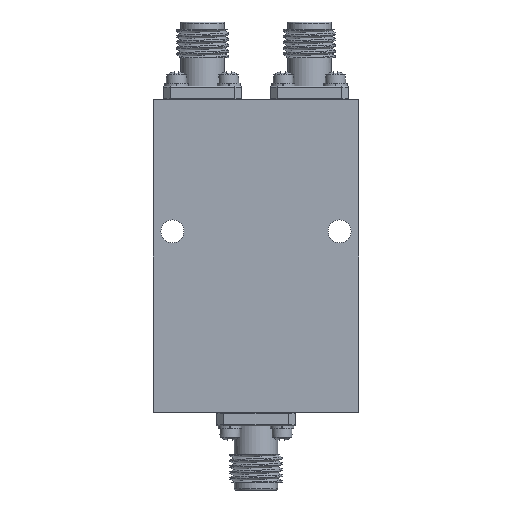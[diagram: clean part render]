
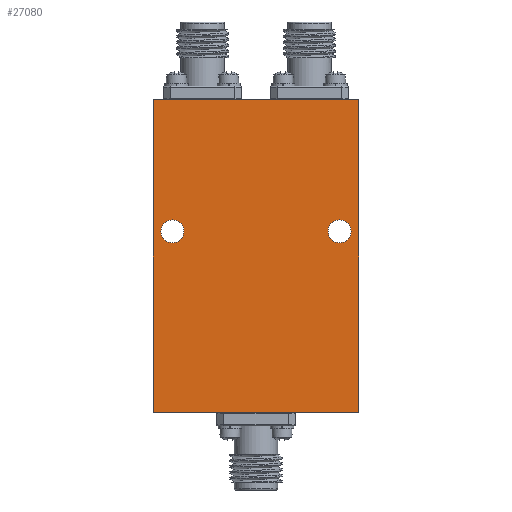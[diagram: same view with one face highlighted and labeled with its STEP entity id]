
A CAD part, front view. The second image highlights one B-rep face of the part: STEP entity #27080.
In plain terms, the highlighted planar face has unit normal (0, -1, 0).
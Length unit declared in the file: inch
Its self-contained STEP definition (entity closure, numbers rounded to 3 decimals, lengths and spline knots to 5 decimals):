
#2441 = CARTESIAN_POINT ( 'NONE',  ( 0., -0.394, 0. ) ) ;
#2663 = VECTOR ( 'NONE', #30545, 39.37008 ) ;
#3137 = CARTESIAN_POINT ( 'NONE',  ( 0.984, -0.394, 0. ) ) ;
#3247 = VERTEX_POINT ( 'NONE', #26199 ) ;
#3667 = VERTEX_POINT ( 'NONE', #6212 ) ;
#4943 = FACE_BOUND ( 'NONE', #8284, .T. ) ;
#5911 = ORIENTED_EDGE ( 'NONE', *, *, #14863, .F. ) ;
#6212 = CARTESIAN_POINT ( 'NONE',  ( 0., -0.394, -1.496 ) ) ;
#6268 = ORIENTED_EDGE ( 'NONE', *, *, #15219, .F. ) ;
#6606 = VECTOR ( 'NONE', #30829, 39.37008 ) ;
#7225 = CIRCLE ( 'NONE', #8906, 0.055 ) ;
#7424 = LINE ( 'NONE', #15207, #27590 ) ;
#7618 = DIRECTION ( 'NONE',  ( 0., -1., 0. ) ) ;
#7755 = DIRECTION ( 'NONE',  ( 0., 0., 1. ) ) ;
#7953 = CARTESIAN_POINT ( 'NONE',  ( 0.092, -0.394, -0.63 ) ) ;
#8284 = EDGE_LOOP ( 'NONE', ( #6268 ) ) ;
#8906 = AXIS2_PLACEMENT_3D ( 'NONE', #21025, #18416, #31321 ) ;
#9548 = CARTESIAN_POINT ( 'NONE',  ( 0.984, -0.394, 0. ) ) ;
#9740 = ORIENTED_EDGE ( 'NONE', *, *, #18826, .F. ) ;
#10535 = VECTOR ( 'NONE', #29671, 39.37008 ) ;
#11409 = LINE ( 'NONE', #3137, #10535 ) ;
#11563 = CARTESIAN_POINT ( 'NONE',  ( 0., -0.394, 0. ) ) ;
#11661 = CARTESIAN_POINT ( 'NONE',  ( 0.984, -0.394, -1.496 ) ) ;
#11667 = DIRECTION ( 'NONE',  ( 0., 0., -1. ) ) ;
#12912 = FACE_BOUND ( 'NONE', #15173, .T. ) ;
#14327 = VERTEX_POINT ( 'NONE', #24868 ) ;
#14645 = AXIS2_PLACEMENT_3D ( 'NONE', #32345, #22049, #11667 ) ;
#14863 = EDGE_CURVE ( 'NONE', #27423, #15305, #11409, .T. ) ;
#15173 = EDGE_LOOP ( 'NONE', ( #31489 ) ) ;
#15207 = CARTESIAN_POINT ( 'NONE',  ( 0., -0.394, 0. ) ) ;
#15219 = EDGE_CURVE ( 'NONE', #14327, #14327, #7225, .T. ) ;
#15305 = VERTEX_POINT ( 'NONE', #11661 ) ;
#15439 = CIRCLE ( 'NONE', #33613, 0.055 ) ;
#16051 = VERTEX_POINT ( 'NONE', #11563 ) ;
#17843 = LINE ( 'NONE', #2441, #2663 ) ;
#17952 = LINE ( 'NONE', #23614, #6606 ) ;
#18205 = EDGE_CURVE ( 'NONE', #15305, #3667, #17952, .T. ) ;
#18416 = DIRECTION ( 'NONE',  ( 0., -1., 0. ) ) ;
#18826 = EDGE_CURVE ( 'NONE', #3667, #16051, #7424, .T. ) ;
#21025 = CARTESIAN_POINT ( 'NONE',  ( 0.892, -0.394, -0.63 ) ) ;
#22049 = DIRECTION ( 'NONE',  ( 0., -1., 0. ) ) ;
#23452 = FACE_OUTER_BOUND ( 'NONE', #25618, .T. ) ;
#23614 = CARTESIAN_POINT ( 'NONE',  ( 0., -0.394, -1.496 ) ) ;
#24868 = CARTESIAN_POINT ( 'NONE',  ( 0.892, -0.394, -0.685 ) ) ;
#25618 = EDGE_LOOP ( 'NONE', ( #9740, #28054, #5911, #33864 ) ) ;
#26199 = CARTESIAN_POINT ( 'NONE',  ( 0.092, -0.394, -0.685 ) ) ;
#27080 = ADVANCED_FACE ( 'NONE', ( #4943, #12912, #23452 ), #33946, .T. ) ;
#27423 = VERTEX_POINT ( 'NONE', #9548 ) ;
#27590 = VECTOR ( 'NONE', #7755, 39.37008 ) ;
#28054 = ORIENTED_EDGE ( 'NONE', *, *, #18205, .F. ) ;
#28491 = EDGE_CURVE ( 'NONE', #3247, #3247, #15439, .T. ) ;
#28676 = DIRECTION ( 'NONE',  ( 0., 0., -1. ) ) ;
#29671 = DIRECTION ( 'NONE',  ( 0., 0., -1. ) ) ;
#30545 = DIRECTION ( 'NONE',  ( 1., 0., 0. ) ) ;
#30829 = DIRECTION ( 'NONE',  ( -1., 0., 0. ) ) ;
#31321 = DIRECTION ( 'NONE',  ( 0., 0., -1. ) ) ;
#31489 = ORIENTED_EDGE ( 'NONE', *, *, #28491, .F. ) ;
#32345 = CARTESIAN_POINT ( 'NONE',  ( 0., -0.394, 0. ) ) ;
#32772 = EDGE_CURVE ( 'NONE', #16051, #27423, #17843, .T. ) ;
#33613 = AXIS2_PLACEMENT_3D ( 'NONE', #7953, #7618, #28676 ) ;
#33864 = ORIENTED_EDGE ( 'NONE', *, *, #32772, .F. ) ;
#33946 = PLANE ( 'NONE',  #14645 ) ;
